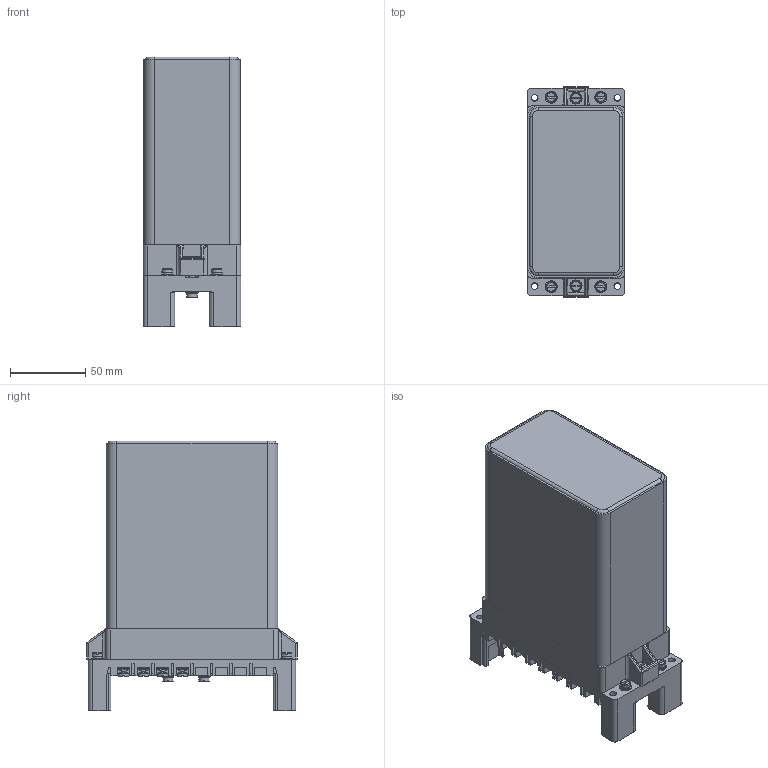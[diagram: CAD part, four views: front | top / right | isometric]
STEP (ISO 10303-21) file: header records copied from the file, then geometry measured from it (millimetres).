
FILE_DESCRIPTION(('STEP AP214'), '1');
FILE_NAME('ÐÍ-153, ÐÍ-154 ç.ï', '', ('UNSPECIFIED'), ('UNSPECIFIED'), 'ASCON STEP Converter 1.3', 'ASCON Math Kernel', '');
FILE_SCHEMA(('AUTOMOTIVE_DESIGN { 1 0 10303 214 3 1 1}'));
Length unit declared in the file: millimetre
Bounding box: 65 x 140 x 179.5 mm (x, y, z)
Volume: 1157961.9 mm3; surface area: 110011.9 mm2
Topology: 1 solids, 1 shells, 4007 faces, 9754 edges, 5895 vertices
Faces by surface type: plane 3236, cylinder 683, torus 49, cone 27, bspline 12
Full cylindrical faces by diameter (mm): 4 x23, 4.3 x6, 4.5 x30, 5 x2, 5.9 x9, 7 x2, 7.5 x10, 8 x8
Entity records: 150199 total; most frequent: CARTESIAN_POINT 24774, ORIENTED_EDGE 19228, DIRECTION 18935, EDGE_CURVE 9614, LINE 7737, VECTOR 7737, VERTEX_POINT 5895, AXIS2_PLACEMENT_3D 5599
